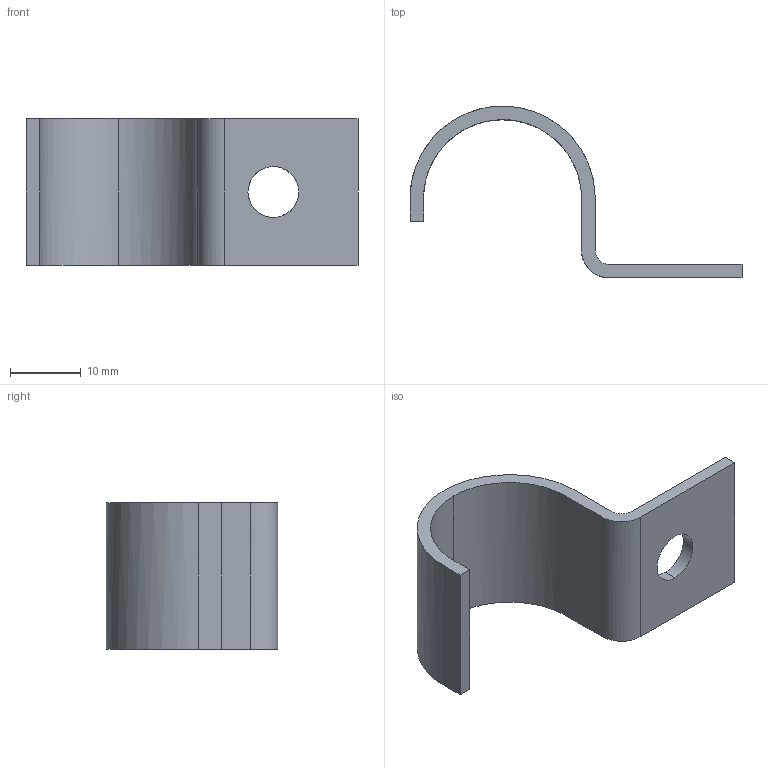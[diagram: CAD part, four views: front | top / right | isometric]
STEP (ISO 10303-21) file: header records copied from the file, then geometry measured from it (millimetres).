
FILE_DESCRIPTION(('TurboCAD Mac Pro'),'Build 980');
FILE_NAME('P2018.stp',' ',(''),(''),'ACIS Interop','IMSI','TurboCAD Mac Pro BY IMSI, INCORPORATED');
FILE_SCHEMA(('automotive_design'));
Length unit declared in the file: inch
Products named in the file (1): 1
Bounding box: 46.77 x 24.18 x 20.64 mm (x, y, z)
Volume: 2751 mm3; surface area: 3277.5 mm2
Topology: 1 solids, 1 shells, 20 faces, 54 edges, 36 vertices
Faces by surface type: bspline 10, plane 10
Entity records: 866 total; most frequent: CARTESIAN_POINT 241, ORIENTED_EDGE 108, DIRECTION 56, EDGE_CURVE 54, VERTEX_POINT 36, LINE 34, VECTOR 34, EDGE_LOOP 22
